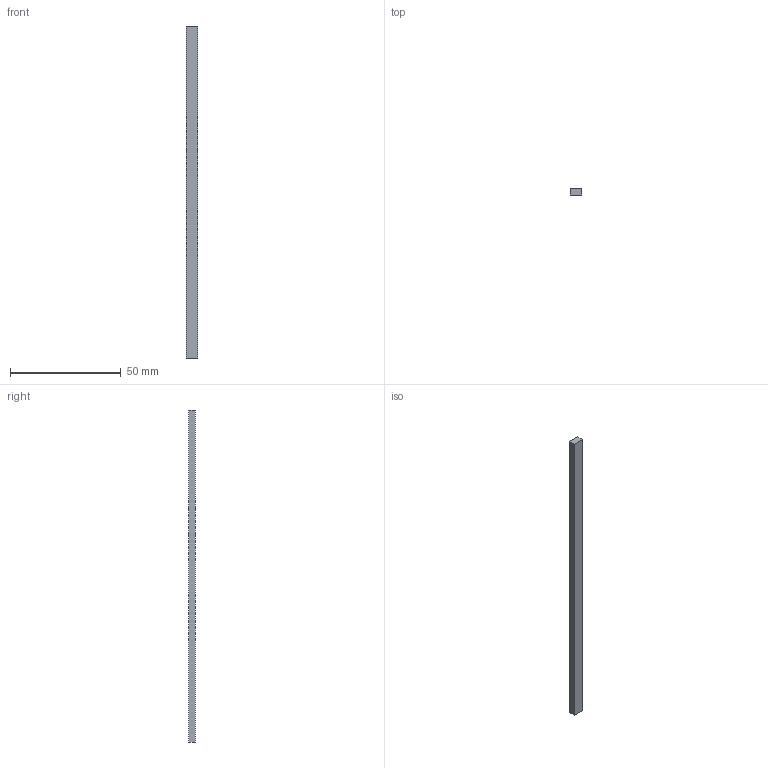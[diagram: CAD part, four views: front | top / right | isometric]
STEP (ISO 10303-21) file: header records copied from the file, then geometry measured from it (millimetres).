
FILE_DESCRIPTION (( 'STEP AP214' ), '1' );
FILE_NAME ('100361-150-PiezoMotor.STEP', '2017-06-07T13:28:48', ( '' ), ( '' ), 'SwSTEP 2.0', 'SolidWorks 2016', '' );
FILE_SCHEMA (( 'AUTOMOTIVE_DESIGN' ));
Length unit declared in the file: millimetre
Products named in the file (2): 100361-150-PiezoMotor
Bounding box: 5.3 x 3 x 150 mm (x, y, z)
Volume: 2385 mm3; surface area: 2521.8 mm2
Topology: 1 solids, 1 shells, 6 faces, 12 edges, 8 vertices
Faces by surface type: plane 6
Entity records: 205 total; most frequent: DIRECTION 28, CARTESIAN_POINT 28, ORIENTED_EDGE 24, VECTOR 12, EDGE_CURVE 12, LINE 12, VERTEX_POINT 8, AXIS2_PLACEMENT_3D 8
